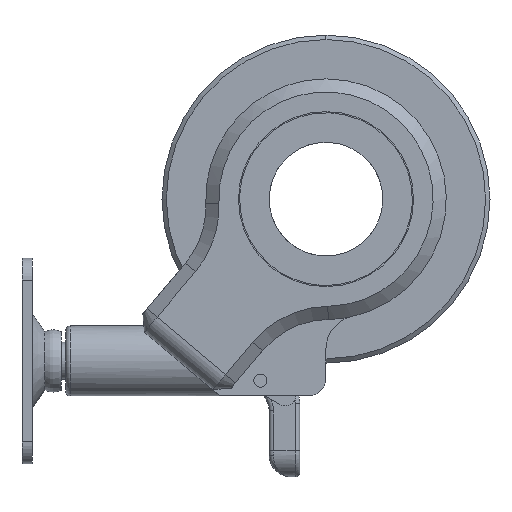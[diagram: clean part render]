
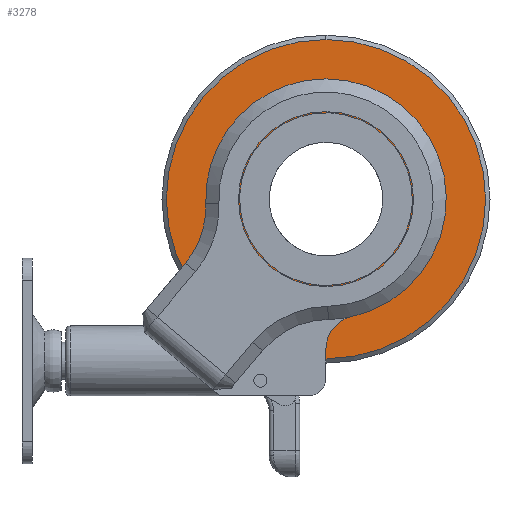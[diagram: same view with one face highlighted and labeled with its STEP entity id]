
A CAD part, left-side view. The second image highlights one B-rep face of the part: STEP entity #3278.
In plain terms, the highlighted planar face has unit normal (-1, 0, 0).
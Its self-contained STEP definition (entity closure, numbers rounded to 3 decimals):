
#6 = CARTESIAN_POINT ( 'NONE',  ( -6.5, 0., 0. ) ) ;
#129 = DIRECTION ( 'NONE',  ( 0., 0., -1. ) ) ;
#239 = DIRECTION ( 'NONE',  ( 1., 0., 0. ) ) ;
#376 = ORIENTED_EDGE ( 'NONE', *, *, #2119, .T. ) ;
#565 = EDGE_LOOP ( 'NONE', ( #2793, #5064 ) ) ;
#577 = VERTEX_POINT ( 'NONE', #1593 ) ;
#762 = VERTEX_POINT ( 'NONE', #1516 ) ;
#962 = FACE_BOUND ( 'NONE', #565, .T. ) ;
#1016 = DIRECTION ( 'NONE',  ( -1., 0., 0. ) ) ;
#1136 = AXIS2_PLACEMENT_3D ( 'NONE', #1490, #1016, #4801 ) ;
#1254 = DIRECTION ( 'NONE',  ( 0., 0., -1. ) ) ;
#1287 = AXIS2_PLACEMENT_3D ( 'NONE', #3438, #1807, #1254 ) ;
#1490 = CARTESIAN_POINT ( 'NONE',  ( -6.5, 0., 0. ) ) ;
#1516 = CARTESIAN_POINT ( 'NONE',  ( -6.5, 0., -36.5 ) ) ;
#1593 = CARTESIAN_POINT ( 'NONE',  ( -6.5, 0., 15.25 ) ) ;
#1603 = VERTEX_POINT ( 'NONE', #4456 ) ;
#1807 = DIRECTION ( 'NONE',  ( -1., 0., 0. ) ) ;
#2119 = EDGE_CURVE ( 'NONE', #4706, #762, #5446, .T. ) ;
#2191 = AXIS2_PLACEMENT_3D ( 'NONE', #2234, #239, #129 ) ;
#2234 = CARTESIAN_POINT ( 'NONE',  ( -6.5, 0., 0. ) ) ;
#2375 = CIRCLE ( 'NONE', #1136, 36.5 ) ;
#2382 = CIRCLE ( 'NONE', #2985, 15.25 ) ;
#2404 = CARTESIAN_POINT ( 'NONE',  ( -6.5, 0., 0. ) ) ;
#2793 = ORIENTED_EDGE ( 'NONE', *, *, #4536, .T. ) ;
#2891 = CIRCLE ( 'NONE', #3165, 15.25 ) ;
#2985 = AXIS2_PLACEMENT_3D ( 'NONE', #6, #4965, #3379 ) ;
#3165 = AXIS2_PLACEMENT_3D ( 'NONE', #2404, #4531, #5376 ) ;
#3278 = ADVANCED_FACE ( 'NONE', ( #4747, #962 ), #5248, .F. ) ;
#3336 = EDGE_CURVE ( 'NONE', #762, #4706, #2375, .T. ) ;
#3370 = EDGE_LOOP ( 'NONE', ( #4075, #376 ) ) ;
#3379 = DIRECTION ( 'NONE',  ( 0., 0., -1. ) ) ;
#3438 = CARTESIAN_POINT ( 'NONE',  ( -6.5, 0., 0. ) ) ;
#4075 = ORIENTED_EDGE ( 'NONE', *, *, #3336, .T. ) ;
#4137 = CARTESIAN_POINT ( 'NONE',  ( -6.5, 0., 36.5 ) ) ;
#4456 = CARTESIAN_POINT ( 'NONE',  ( -6.5, 0., -15.25 ) ) ;
#4531 = DIRECTION ( 'NONE',  ( 1., 0., 0. ) ) ;
#4536 = EDGE_CURVE ( 'NONE', #1603, #577, #2891, .T. ) ;
#4706 = VERTEX_POINT ( 'NONE', #4137 ) ;
#4747 = FACE_OUTER_BOUND ( 'NONE', #3370, .T. ) ;
#4801 = DIRECTION ( 'NONE',  ( 0., 0., -1. ) ) ;
#4965 = DIRECTION ( 'NONE',  ( 1., 0., 0. ) ) ;
#5064 = ORIENTED_EDGE ( 'NONE', *, *, #5080, .T. ) ;
#5080 = EDGE_CURVE ( 'NONE', #577, #1603, #2382, .T. ) ;
#5248 = PLANE ( 'NONE',  #2191 ) ;
#5376 = DIRECTION ( 'NONE',  ( 0., 0., -1. ) ) ;
#5446 = CIRCLE ( 'NONE', #1287, 36.5 ) ;
